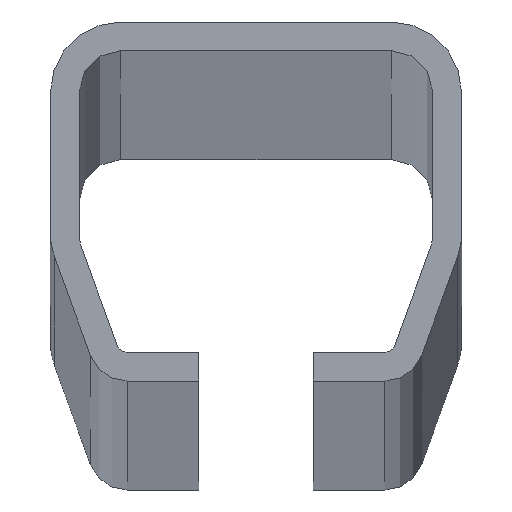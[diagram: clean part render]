
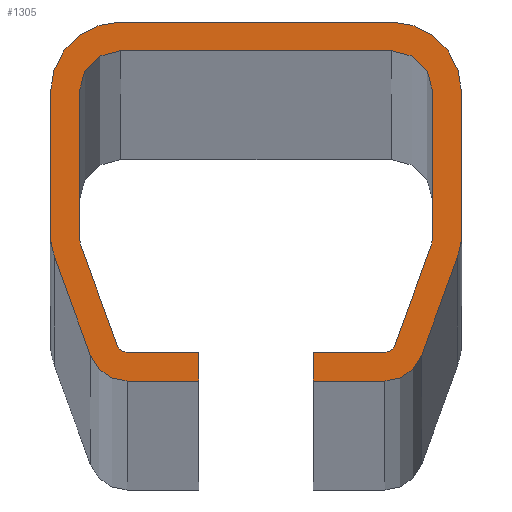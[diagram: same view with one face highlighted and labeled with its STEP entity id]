
A CAD part, top view. The second image highlights one B-rep face of the part: STEP entity #1305.
In plain terms, the highlighted planar face has unit normal (0, 0, 1).
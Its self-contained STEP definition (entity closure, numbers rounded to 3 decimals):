
#23=CIRCLE('',#1368,3.75);
#25=CIRCLE('',#1372,6.75);
#27=CIRCLE('',#1376,6.75);
#29=CIRCLE('',#1380,6.75);
#31=CIRCLE('',#1384,6.75);
#33=CIRCLE('',#1388,3.75);
#35=CIRCLE('',#1394,1.);
#37=CIRCLE('',#1398,4.);
#39=CIRCLE('',#1402,4.);
#41=CIRCLE('',#1406,4.);
#43=CIRCLE('',#1410,4.);
#45=CIRCLE('',#1414,1.);
#127=FACE_OUTER_BOUND('',#205,.T.);
#205=EDGE_LOOP('',(#1123,#1124,#1125,#1126,#1127,#1128,#1129,#1130,#1131,
#1132,#1133,#1134,#1135,#1136,#1137,#1138,#1139,#1140,#1141,#1142,#1143,
#1144,#1145,#1146,#1147,#1148,#1149,#1150));
#305=LINE('',#1979,#461);
#309=LINE('',#1991,#465);
#313=LINE('',#2003,#469);
#317=LINE('',#2015,#473);
#321=LINE('',#2027,#477);
#325=LINE('',#2039,#481);
#328=LINE('',#2045,#484);
#331=LINE('',#2051,#487);
#335=LINE('',#2063,#491);
#339=LINE('',#2075,#495);
#343=LINE('',#2087,#499);
#347=LINE('',#2099,#503);
#351=LINE('',#2111,#507);
#355=LINE('',#2123,#511);
#358=LINE('',#2129,#514);
#361=LINE('',#2134,#517);
#461=VECTOR('',#1609,10.);
#465=VECTOR('',#1621,10.);
#469=VECTOR('',#1633,10.);
#473=VECTOR('',#1645,10.);
#477=VECTOR('',#1657,10.);
#481=VECTOR('',#1669,10.);
#484=VECTOR('',#1674,10.);
#487=VECTOR('',#1679,10.);
#491=VECTOR('',#1691,10.);
#495=VECTOR('',#1703,10.);
#499=VECTOR('',#1715,10.);
#503=VECTOR('',#1727,10.);
#507=VECTOR('',#1739,10.);
#511=VECTOR('',#1751,10.);
#514=VECTOR('',#1756,10.);
#517=VECTOR('',#1761,10.);
#583=VERTEX_POINT('',#1969);
#584=VERTEX_POINT('',#1970);
#587=VERTEX_POINT('',#1978);
#589=VERTEX_POINT('',#1984);
#591=VERTEX_POINT('',#1990);
#593=VERTEX_POINT('',#1996);
#595=VERTEX_POINT('',#2002);
#597=VERTEX_POINT('',#2008);
#599=VERTEX_POINT('',#2014);
#601=VERTEX_POINT('',#2020);
#603=VERTEX_POINT('',#2026);
#605=VERTEX_POINT('',#2032);
#607=VERTEX_POINT('',#2038);
#609=VERTEX_POINT('',#2044);
#611=VERTEX_POINT('',#2050);
#613=VERTEX_POINT('',#2056);
#615=VERTEX_POINT('',#2062);
#617=VERTEX_POINT('',#2068);
#619=VERTEX_POINT('',#2074);
#621=VERTEX_POINT('',#2080);
#623=VERTEX_POINT('',#2086);
#625=VERTEX_POINT('',#2092);
#627=VERTEX_POINT('',#2098);
#629=VERTEX_POINT('',#2104);
#631=VERTEX_POINT('',#2110);
#633=VERTEX_POINT('',#2116);
#635=VERTEX_POINT('',#2122);
#637=VERTEX_POINT('',#2128);
#735=EDGE_CURVE('',#583,#584,#23,.T.);
#739=EDGE_CURVE('',#584,#587,#305,.T.);
#742=EDGE_CURVE('',#587,#589,#25,.T.);
#745=EDGE_CURVE('',#589,#591,#309,.T.);
#748=EDGE_CURVE('',#591,#593,#27,.T.);
#751=EDGE_CURVE('',#593,#595,#313,.T.);
#754=EDGE_CURVE('',#595,#597,#29,.T.);
#757=EDGE_CURVE('',#597,#599,#317,.T.);
#760=EDGE_CURVE('',#599,#601,#31,.T.);
#763=EDGE_CURVE('',#601,#603,#321,.T.);
#766=EDGE_CURVE('',#603,#605,#33,.T.);
#769=EDGE_CURVE('',#605,#607,#325,.T.);
#772=EDGE_CURVE('',#607,#609,#328,.T.);
#775=EDGE_CURVE('',#609,#611,#331,.T.);
#778=EDGE_CURVE('',#611,#613,#35,.T.);
#781=EDGE_CURVE('',#613,#615,#335,.T.);
#784=EDGE_CURVE('',#615,#617,#37,.T.);
#787=EDGE_CURVE('',#617,#619,#339,.T.);
#790=EDGE_CURVE('',#619,#621,#39,.T.);
#793=EDGE_CURVE('',#621,#623,#343,.T.);
#796=EDGE_CURVE('',#623,#625,#41,.T.);
#799=EDGE_CURVE('',#625,#627,#347,.T.);
#802=EDGE_CURVE('',#627,#629,#43,.T.);
#805=EDGE_CURVE('',#629,#631,#351,.T.);
#808=EDGE_CURVE('',#631,#633,#45,.T.);
#811=EDGE_CURVE('',#633,#635,#355,.T.);
#814=EDGE_CURVE('',#635,#637,#358,.T.);
#817=EDGE_CURVE('',#637,#583,#361,.T.);
#1123=ORIENTED_EDGE('',*,*,#735,.F.);
#1124=ORIENTED_EDGE('',*,*,#817,.F.);
#1125=ORIENTED_EDGE('',*,*,#814,.F.);
#1126=ORIENTED_EDGE('',*,*,#811,.F.);
#1127=ORIENTED_EDGE('',*,*,#808,.F.);
#1128=ORIENTED_EDGE('',*,*,#805,.F.);
#1129=ORIENTED_EDGE('',*,*,#802,.F.);
#1130=ORIENTED_EDGE('',*,*,#799,.F.);
#1131=ORIENTED_EDGE('',*,*,#796,.F.);
#1132=ORIENTED_EDGE('',*,*,#793,.F.);
#1133=ORIENTED_EDGE('',*,*,#790,.F.);
#1134=ORIENTED_EDGE('',*,*,#787,.F.);
#1135=ORIENTED_EDGE('',*,*,#784,.F.);
#1136=ORIENTED_EDGE('',*,*,#781,.F.);
#1137=ORIENTED_EDGE('',*,*,#778,.F.);
#1138=ORIENTED_EDGE('',*,*,#775,.F.);
#1139=ORIENTED_EDGE('',*,*,#772,.F.);
#1140=ORIENTED_EDGE('',*,*,#769,.F.);
#1141=ORIENTED_EDGE('',*,*,#766,.F.);
#1142=ORIENTED_EDGE('',*,*,#763,.F.);
#1143=ORIENTED_EDGE('',*,*,#760,.F.);
#1144=ORIENTED_EDGE('',*,*,#757,.F.);
#1145=ORIENTED_EDGE('',*,*,#754,.F.);
#1146=ORIENTED_EDGE('',*,*,#751,.F.);
#1147=ORIENTED_EDGE('',*,*,#748,.F.);
#1148=ORIENTED_EDGE('',*,*,#745,.F.);
#1149=ORIENTED_EDGE('',*,*,#742,.F.);
#1150=ORIENTED_EDGE('',*,*,#739,.F.);
#1235=PLANE('',#1419);
#1305=ADVANCED_FACE('',(#127),#1235,.T.);
#1368=AXIS2_PLACEMENT_3D('',#1971,#1601,#1602);
#1372=AXIS2_PLACEMENT_3D('',#1985,#1614,#1615);
#1376=AXIS2_PLACEMENT_3D('',#1997,#1626,#1627);
#1380=AXIS2_PLACEMENT_3D('',#2009,#1638,#1639);
#1384=AXIS2_PLACEMENT_3D('',#2021,#1650,#1651);
#1388=AXIS2_PLACEMENT_3D('',#2033,#1662,#1663);
#1394=AXIS2_PLACEMENT_3D('',#2057,#1684,#1685);
#1398=AXIS2_PLACEMENT_3D('',#2069,#1696,#1697);
#1402=AXIS2_PLACEMENT_3D('',#2081,#1708,#1709);
#1406=AXIS2_PLACEMENT_3D('',#2093,#1720,#1721);
#1410=AXIS2_PLACEMENT_3D('',#2105,#1732,#1733);
#1414=AXIS2_PLACEMENT_3D('',#2117,#1744,#1745);
#1419=AXIS2_PLACEMENT_3D('',#2136,#1763,#1764);
#1601=DIRECTION('center_axis',(0.,0.,-1.));
#1602=DIRECTION('ref_axis',(0.94,0.342,0.));
#1609=DIRECTION('',(-0.342,0.94,0.));
#1614=DIRECTION('center_axis',(0.,0.,-1.));
#1615=DIRECTION('ref_axis',(1.,0.,0.));
#1621=DIRECTION('',(0.,1.,0.));
#1626=DIRECTION('center_axis',(0.,0.,-1.));
#1627=DIRECTION('ref_axis',(0.,-1.,0.));
#1633=DIRECTION('',(1.,0.,0.));
#1638=DIRECTION('center_axis',(0.,0.,-1.));
#1639=DIRECTION('ref_axis',(-1.,0.,0.));
#1645=DIRECTION('',(0.,-1.,0.));
#1650=DIRECTION('center_axis',(0.,0.,-1.));
#1651=DIRECTION('ref_axis',(-0.94,0.342,0.));
#1657=DIRECTION('',(-0.342,-0.94,0.));
#1662=DIRECTION('center_axis',(0.,0.,-1.));
#1663=DIRECTION('ref_axis',(0.,1.,0.));
#1669=DIRECTION('',(-1.,0.,0.));
#1674=DIRECTION('',(0.,1.,0.));
#1679=DIRECTION('',(1.,0.,0.));
#1684=DIRECTION('center_axis',(0.,0.,1.));
#1685=DIRECTION('ref_axis',(0.,-1.,0.));
#1691=DIRECTION('',(0.342,0.94,0.));
#1696=DIRECTION('center_axis',(0.,0.,1.));
#1697=DIRECTION('ref_axis',(0.94,-0.342,0.));
#1703=DIRECTION('',(0.,1.,0.));
#1708=DIRECTION('center_axis',(0.,0.,1.));
#1709=DIRECTION('ref_axis',(1.,0.,0.));
#1715=DIRECTION('',(-1.,0.,0.));
#1720=DIRECTION('center_axis',(0.,0.,1.));
#1721=DIRECTION('ref_axis',(0.,1.,0.));
#1727=DIRECTION('',(0.,-1.,0.));
#1732=DIRECTION('center_axis',(0.,0.,1.));
#1733=DIRECTION('ref_axis',(-1.,0.,0.));
#1739=DIRECTION('',(0.342,-0.94,0.));
#1744=DIRECTION('center_axis',(0.,0.,1.));
#1745=DIRECTION('ref_axis',(-0.94,-0.342,0.));
#1751=DIRECTION('',(1.,0.,0.));
#1756=DIRECTION('',(0.,-1.,0.));
#1761=DIRECTION('',(-1.,0.,0.));
#1763=DIRECTION('center_axis',(0.,0.,1.));
#1764=DIRECTION('ref_axis',(1.,0.,0.));
#1969=CARTESIAN_POINT('',(-12.393,-2.75,6000.));
#1970=CARTESIAN_POINT('',(-15.916,-0.283,6000.));
#1971=CARTESIAN_POINT('Origin',(-12.393,1.,6000.));
#1978=CARTESIAN_POINT('',(-19.343,9.132,6000.));
#1979=CARTESIAN_POINT('',(-15.916,-0.283,6000.));
#1984=CARTESIAN_POINT('',(-19.75,11.44,6000.));
#1985=CARTESIAN_POINT('Origin',(-13.,11.44,6000.));
#1990=CARTESIAN_POINT('',(-19.75,25.,6000.));
#1991=CARTESIAN_POINT('',(-19.75,11.44,6000.));
#1996=CARTESIAN_POINT('',(-13.,31.75,6000.));
#1997=CARTESIAN_POINT('Origin',(-13.,25.,6000.));
#2002=CARTESIAN_POINT('',(13.,31.75,6000.));
#2003=CARTESIAN_POINT('',(-13.,31.75,6000.));
#2008=CARTESIAN_POINT('',(19.75,25.,6000.));
#2009=CARTESIAN_POINT('Origin',(13.,25.,6000.));
#2014=CARTESIAN_POINT('',(19.75,11.44,6000.));
#2015=CARTESIAN_POINT('',(19.75,25.,6000.));
#2020=CARTESIAN_POINT('',(19.343,9.132,6000.));
#2021=CARTESIAN_POINT('Origin',(13.,11.44,6000.));
#2026=CARTESIAN_POINT('',(15.916,-0.283,6000.));
#2027=CARTESIAN_POINT('',(19.343,9.132,6000.));
#2032=CARTESIAN_POINT('',(12.393,-2.75,6000.));
#2033=CARTESIAN_POINT('Origin',(12.393,1.,6000.));
#2038=CARTESIAN_POINT('',(5.5,-2.75,6000.));
#2039=CARTESIAN_POINT('',(12.393,-2.75,6000.));
#2044=CARTESIAN_POINT('',(5.5,0.,6000.));
#2045=CARTESIAN_POINT('',(5.5,-2.75,6000.));
#2050=CARTESIAN_POINT('',(12.393,0.,6000.));
#2051=CARTESIAN_POINT('',(5.5,0.,6000.));
#2056=CARTESIAN_POINT('',(13.332,0.658,6000.));
#2057=CARTESIAN_POINT('Origin',(12.393,1.,6000.));
#2062=CARTESIAN_POINT('',(16.759,10.072,6000.));
#2063=CARTESIAN_POINT('',(13.332,0.658,6000.));
#2068=CARTESIAN_POINT('',(17.,11.44,6000.));
#2069=CARTESIAN_POINT('Origin',(13.,11.44,6000.));
#2074=CARTESIAN_POINT('',(17.,25.,6000.));
#2075=CARTESIAN_POINT('',(17.,11.44,6000.));
#2080=CARTESIAN_POINT('',(13.,29.,6000.));
#2081=CARTESIAN_POINT('Origin',(13.,25.,6000.));
#2086=CARTESIAN_POINT('',(-13.,29.,6000.));
#2087=CARTESIAN_POINT('',(13.,29.,6000.));
#2092=CARTESIAN_POINT('',(-17.,25.,6000.));
#2093=CARTESIAN_POINT('Origin',(-13.,25.,6000.));
#2098=CARTESIAN_POINT('',(-17.,11.44,6000.));
#2099=CARTESIAN_POINT('',(-17.,25.,6000.));
#2104=CARTESIAN_POINT('',(-16.759,10.072,6000.));
#2105=CARTESIAN_POINT('Origin',(-13.,11.44,6000.));
#2110=CARTESIAN_POINT('',(-13.332,0.658,6000.));
#2111=CARTESIAN_POINT('',(-16.759,10.072,6000.));
#2116=CARTESIAN_POINT('',(-12.393,0.,6000.));
#2117=CARTESIAN_POINT('Origin',(-12.393,1.,6000.));
#2122=CARTESIAN_POINT('',(-5.5,0.,6000.));
#2123=CARTESIAN_POINT('',(-12.393,0.,6000.));
#2128=CARTESIAN_POINT('',(-5.5,-2.75,6000.));
#2129=CARTESIAN_POINT('',(-5.5,0.,6000.));
#2134=CARTESIAN_POINT('',(-5.5,-2.75,6000.));
#2136=CARTESIAN_POINT('Origin',(0.,16.125,6000.));
